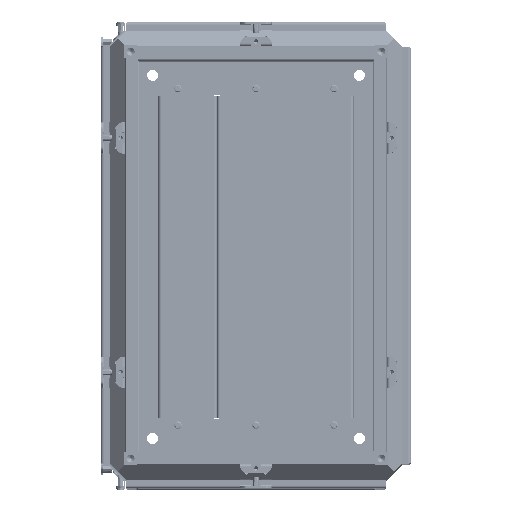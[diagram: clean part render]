
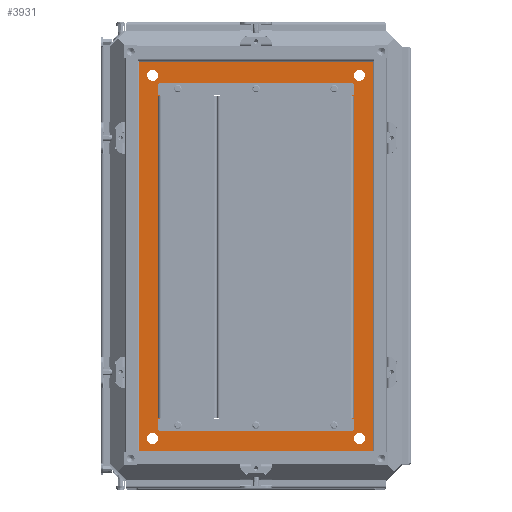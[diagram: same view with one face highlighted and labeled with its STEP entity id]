
A CAD part, top view. The second image highlights one B-rep face of the part: STEP entity #3931.
In plain terms, the highlighted planar face has unit normal (0, 0, 1).
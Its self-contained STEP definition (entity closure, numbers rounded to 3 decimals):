
#3931=ADVANCED_FACE('',(#14067,#14069,#14071,#14073,#14075,#14077),#14079,.F.);
#14067=FACE_BOUND('',#14068,.T.);
#14068=EDGE_LOOP('',(#88741,#88742,#88743,#88744));
#14069=FACE_BOUND('',#14070,.T.);
#14070=EDGE_LOOP('',(#88745,#88746,#88747,#88748));
#14071=FACE_BOUND('',#14072,.T.);
#14072=EDGE_LOOP('',(#88749));
#14073=FACE_BOUND('',#14074,.T.);
#14074=EDGE_LOOP('',(#88750));
#14075=FACE_BOUND('',#14076,.T.);
#14076=EDGE_LOOP('',(#88751));
#14077=FACE_BOUND('',#14078,.T.);
#14078=EDGE_LOOP('',(#88752));
#14079=PLANE('',#14080);
#14080=AXIS2_PLACEMENT_3D('',#14081,#14082,#14083);
#14081=CARTESIAN_POINT('',(0.,0.,-47.5));
#14082=DIRECTION('',(0.,0.,-1.));
#14083=DIRECTION('',(0.,1.,0.));
#88741=ORIENTED_EDGE('',*,*,#133851,.F.);
#88742=ORIENTED_EDGE('',*,*,#133852,.F.);
#88743=ORIENTED_EDGE('',*,*,#133853,.T.);
#88744=ORIENTED_EDGE('',*,*,#133854,.T.);
#88745=ORIENTED_EDGE('',*,*,#133855,.T.);
#88746=ORIENTED_EDGE('',*,*,#133856,.F.);
#88747=ORIENTED_EDGE('',*,*,#133857,.F.);
#88748=ORIENTED_EDGE('',*,*,#133858,.F.);
#88749=ORIENTED_EDGE('',*,*,#133859,.T.);
#88750=ORIENTED_EDGE('',*,*,#133860,.F.);
#88751=ORIENTED_EDGE('',*,*,#133861,.F.);
#88752=ORIENTED_EDGE('',*,*,#133862,.T.);
#133851=EDGE_CURVE('',#157290,#157291,#157292,.F.);
#133852=EDGE_CURVE('',#157293,#157290,#157294,.F.);
#133853=EDGE_CURVE('',#157293,#157295,#157296,.F.);
#133854=EDGE_CURVE('',#157295,#157291,#157297,.F.);
#133855=EDGE_CURVE('',#157298,#157299,#157300,.F.);
#133856=EDGE_CURVE('',#157301,#157299,#157302,.F.);
#133857=EDGE_CURVE('',#157303,#157301,#157304,.F.);
#133858=EDGE_CURVE('',#157298,#157303,#157305,.F.);
#133859=EDGE_CURVE('',#157306,#157306,#157307,.T.);
#133860=EDGE_CURVE('',#157308,#157308,#157309,.T.);
#133861=EDGE_CURVE('',#157310,#157310,#157311,.T.);
#133862=EDGE_CURVE('',#157312,#157312,#157313,.T.);
#157290=VERTEX_POINT('',#198287);
#157291=VERTEX_POINT('',#198288);
#157292=LINE('',#198289,#198290);
#157293=VERTEX_POINT('',#198292);
#157294=LINE('',#198293,#198294);
#157295=VERTEX_POINT('',#198296);
#157296=LINE('',#198297,#198298);
#157297=LINE('',#198300,#198301);
#157298=VERTEX_POINT('',#198303);
#157299=VERTEX_POINT('',#198304);
#157300=LINE('',#198305,#198306);
#157301=VERTEX_POINT('',#198308);
#157302=LINE('',#198309,#198310);
#157303=VERTEX_POINT('',#198312);
#157304=LINE('',#198313,#198314);
#157305=LINE('',#198316,#198317);
#157306=VERTEX_POINT('',#198319);
#157307=CIRCLE('',#198320,7.);
#157308=VERTEX_POINT('',#198324);
#157309=CIRCLE('',#198325,7.);
#157310=VERTEX_POINT('',#198329);
#157311=CIRCLE('',#198330,7.);
#157312=VERTEX_POINT('',#198334);
#157313=CIRCLE('',#198335,7.);
#198287=CARTESIAN_POINT('',(-1.6,1.6,-47.5));
#198288=CARTESIAN_POINT('',(-300.4,1.6,-47.5));
#198289=CARTESIAN_POINT('',(-300.4,1.6,-47.5));
#198290=VECTOR('',#198291,1.);
#198291=DIRECTION('',(1.,0.,0.));
#198292=CARTESIAN_POINT('',(-1.6,500.4,-47.5));
#198293=CARTESIAN_POINT('',(-1.6,1.6,-47.5));
#198294=VECTOR('',#198295,1.);
#198295=DIRECTION('',(0.,1.,0.));
#198296=CARTESIAN_POINT('',(-300.4,500.4,-47.5));
#198297=CARTESIAN_POINT('',(-300.4,500.4,-47.5));
#198298=VECTOR('',#198299,1.);
#198299=DIRECTION('',(1.,0.,0.));
#198300=CARTESIAN_POINT('',(-300.4,1.6,-47.5));
#198301=VECTOR('',#198302,1.);
#198302=DIRECTION('',(0.,1.,0.));
#198303=CARTESIAN_POINT('',(-39.4,39.4,-47.5));
#198304=CARTESIAN_POINT('',(-262.6,39.4,-47.5));
#198305=CARTESIAN_POINT('',(-262.6,39.4,-47.5));
#198306=VECTOR('',#198307,1.);
#198307=DIRECTION('',(1.,0.,0.));
#198308=CARTESIAN_POINT('',(-262.6,462.6,-47.5));
#198309=CARTESIAN_POINT('',(-262.6,39.4,-47.5));
#198310=VECTOR('',#198311,1.);
#198311=DIRECTION('',(0.,1.,0.));
#198312=CARTESIAN_POINT('',(-39.4,462.6,-47.5));
#198313=CARTESIAN_POINT('',(-262.6,462.6,-47.5));
#198314=VECTOR('',#198315,1.);
#198315=DIRECTION('',(1.,0.,0.));
#198316=CARTESIAN_POINT('',(-39.4,462.6,-47.5));
#198317=VECTOR('',#198318,1.);
#198318=DIRECTION('',(0.,-1.,0.));
#198319=CARTESIAN_POINT('',(-18.5,25.5,-47.5));
#198320=AXIS2_PLACEMENT_3D('',#198321,#198322,#198323);
#198321=CARTESIAN_POINT('',(-18.5,18.5,-47.5));
#198322=DIRECTION('',(0.,0.,-1.));
#198323=DIRECTION('',(0.,1.,0.));
#198324=CARTESIAN_POINT('',(-283.5,25.5,-47.5));
#198325=AXIS2_PLACEMENT_3D('',#198326,#198327,#198328);
#198326=CARTESIAN_POINT('',(-283.5,18.5,-47.5));
#198327=DIRECTION('',(0.,0.,1.));
#198328=DIRECTION('',(0.,1.,0.));
#198329=CARTESIAN_POINT('',(-18.5,476.5,-47.5));
#198330=AXIS2_PLACEMENT_3D('',#198331,#198332,#198333);
#198331=CARTESIAN_POINT('',(-18.5,483.5,-47.5));
#198332=DIRECTION('',(0.,0.,1.));
#198333=DIRECTION('',(0.,-1.,0.));
#198334=CARTESIAN_POINT('',(-283.5,476.5,-47.5));
#198335=AXIS2_PLACEMENT_3D('',#198336,#198337,#198338);
#198336=CARTESIAN_POINT('',(-283.5,483.5,-47.5));
#198337=DIRECTION('',(0.,0.,-1.));
#198338=DIRECTION('',(0.,-1.,0.));
